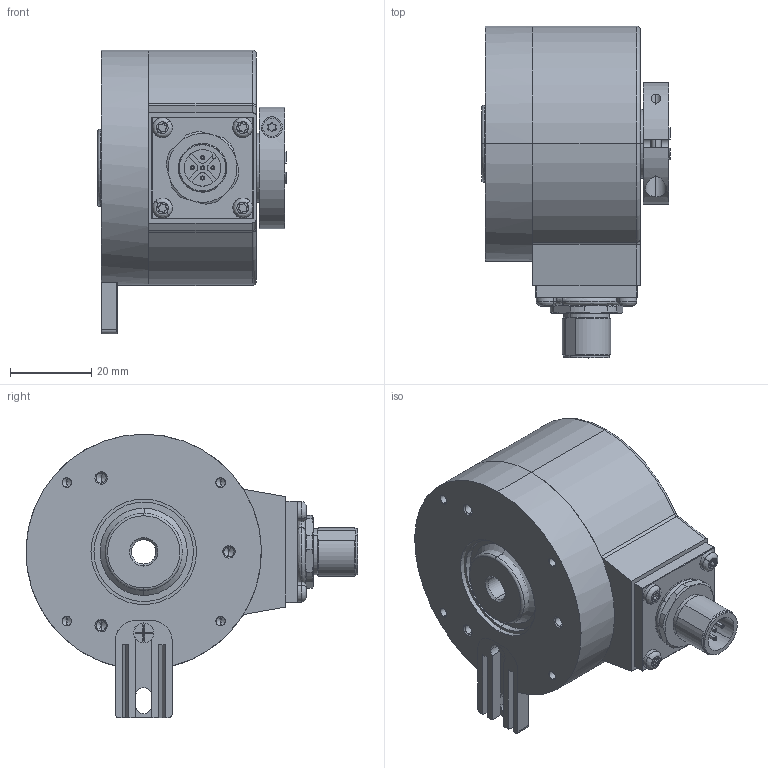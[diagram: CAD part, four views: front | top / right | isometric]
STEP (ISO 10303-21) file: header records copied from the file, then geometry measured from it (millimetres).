
FILE_DESCRIPTION (( 'STEP AP203' ), '1' );
FILE_NAME ('K58I.OXX.XXXXX.XC11506.6XRC3.step', '2025-12-08T11:09:41', ( '' ), ( '' ), 'SwSTEP 2.0', 'SolidWorks 2021', '' );
FILE_SCHEMA (( 'CONFIG_CONTROL_DESIGN' ));
Length unit declared in the file: millimetre
Products named in the file (1): K58I.OXX.XXXXX.XC11506.6XRC3
Bounding box: 46.5 x 81.8 x 69.9 mm (x, y, z)
Surface area: 33053.6 mm2 (no closed solid volume)
Topology: 0 solids, 13 shells, 474 faces, 1178 edges, 748 vertices
Faces by surface type: cylinder 223, plane 159, cone 61, bspline 24, torus 7
Entity records: 15962 total; most frequent: CARTESIAN_POINT 4488, DIRECTION 2508, ORIENTED_EDGE 2312, EDGE_CURVE 1164, AXIS2_PLACEMENT_3D 992, VERTEX_POINT 748, CIRCLE 541, EDGE_LOOP 530
